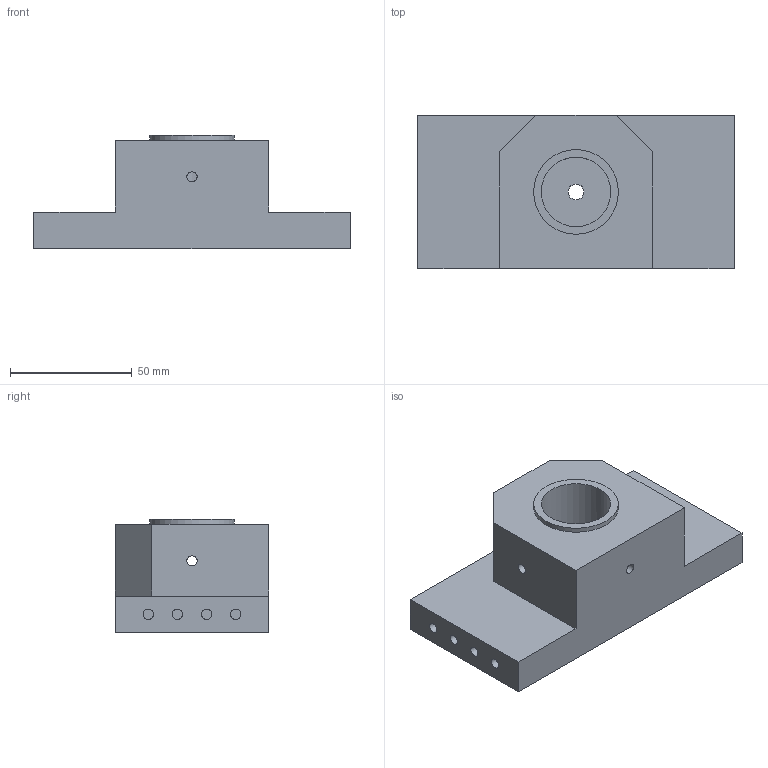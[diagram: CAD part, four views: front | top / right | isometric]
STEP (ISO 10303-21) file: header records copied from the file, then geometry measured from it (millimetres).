
FILE_DESCRIPTION(/* description */ (''),/* implementation_level */ '2;1');
FILE_NAME(/* name */ 'C:/Users/David Florian/Desktop/Cyber-Scooter-Step-Files/2-Fork-Top.step',/* time_stamp */ '2020-12-14T22:09:03-06:00',/* author */ (''),/* organization */ (''),/* preprocessor_version */ 'ST-DEVELOPER v18.1',/* originating_system */ 'Autodesk Translation Framework v9.7.1.1290',/* authorisation */ '');
FILE_SCHEMA (('AUTOMOTIVE_DESIGN { 1 0 10303 214 3 1 1 }'));
Length unit declared in the file: millimetre
Products named in the file (1): Fork-top-3
Bounding box: 130.2 x 63 x 46.5 mm (x, y, z)
Volume: 211760.1 mm3; surface area: 35115.7 mm2
Topology: 1 solids, 1 shells, 36 faces, 76 edges, 51 vertices
Faces by surface type: plane 22, cylinder 14
Full cylindrical faces by diameter (mm): 4.2 x11, 6.5 x1, 28.575 x1, 34.83 x1
Entity records: 1112 total; most frequent: CARTESIAN_POINT 266, DIRECTION 169, ORIENTED_EDGE 152, EDGE_CURVE 76, AXIS2_PLACEMENT_3D 62, EDGE_LOOP 53, VERTEX_POINT 51, LINE 45
